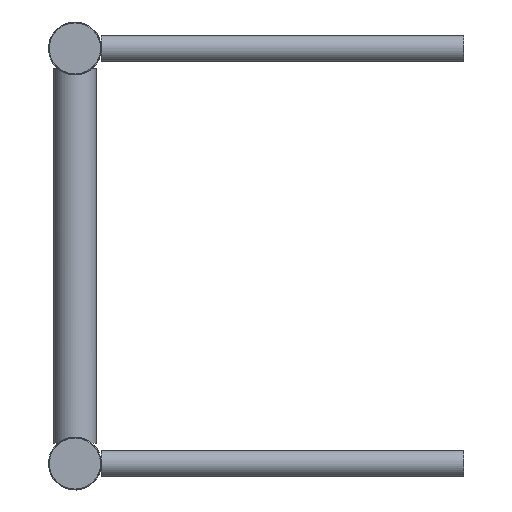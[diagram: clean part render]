
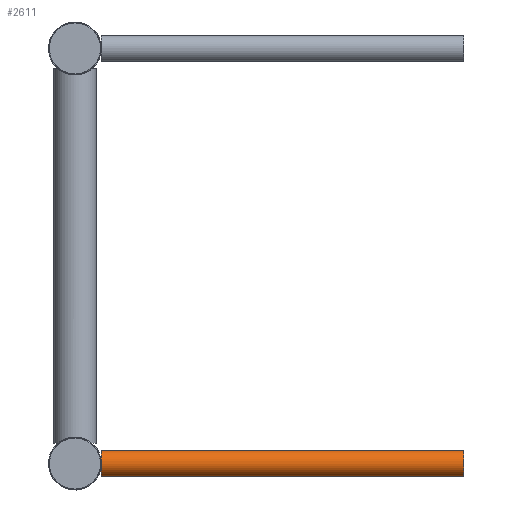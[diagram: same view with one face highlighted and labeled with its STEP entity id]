
A CAD part, left-side view. The second image highlights one B-rep face of the part: STEP entity #2611.
In plain terms, the highlighted cylindrical face has radius 15 mm (diameter 30 mm), a full revolution.
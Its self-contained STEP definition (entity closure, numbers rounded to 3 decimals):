
#82=CIRCLE('',#2801,15.);
#83=CIRCLE('',#2803,15.);
#88=CIRCLE('',#2809,15.);
#89=CIRCLE('',#2811,15.);
#492=FACE_BOUND('',#795,.T.);
#629=FACE_OUTER_BOUND('',#794,.T.);
#794=EDGE_LOOP('',(#1822,#1823));
#795=EDGE_LOOP('',(#1824,#1825));
#1164=VERTEX_POINT('',#5132);
#1165=VERTEX_POINT('',#5133);
#1167=VERTEX_POINT('',#5138);
#1168=VERTEX_POINT('',#5140);
#1440=EDGE_CURVE('',#1165,#1164,#82,.T.);
#1442=EDGE_CURVE('',#1168,#1167,#83,.T.);
#1450=EDGE_CURVE('',#1167,#1168,#88,.T.);
#1451=EDGE_CURVE('',#1164,#1165,#89,.T.);
#1822=ORIENTED_EDGE('',*,*,#1440,.T.);
#1823=ORIENTED_EDGE('',*,*,#1451,.T.);
#1824=ORIENTED_EDGE('',*,*,#1450,.T.);
#1825=ORIENTED_EDGE('',*,*,#1442,.T.);
#2384=CYLINDRICAL_SURFACE('',#2812,15.);
#2611=ADVANCED_FACE('',(#629,#492),#2384,.T.);
#2801=AXIS2_PLACEMENT_3D('',#5135,#3167,#3168);
#2803=AXIS2_PLACEMENT_3D('',#5141,#3172,#3173);
#2809=AXIS2_PLACEMENT_3D('',#5155,#3187,#3188);
#2811=AXIS2_PLACEMENT_3D('',#5157,#3191,#3192);
#2812=AXIS2_PLACEMENT_3D('',#5158,#3193,#3194);
#3167=DIRECTION('center_axis',(0.,1.,0.));
#3168=DIRECTION('ref_axis',(1.,0.,0.));
#3172=DIRECTION('center_axis',(0.,-1.,0.));
#3173=DIRECTION('ref_axis',(1.,0.,0.));
#3187=DIRECTION('center_axis',(0.,-1.,0.));
#3188=DIRECTION('ref_axis',(1.,0.,0.));
#3191=DIRECTION('center_axis',(0.,1.,0.));
#3192=DIRECTION('ref_axis',(1.,0.,0.));
#3193=DIRECTION('center_axis',(0.,1.,0.));
#3194=DIRECTION('ref_axis',(1.,0.,0.));
#5132=CARTESIAN_POINT('',(110.,30.,-470.));
#5133=CARTESIAN_POINT('',(80.,30.,-470.));
#5135=CARTESIAN_POINT('Origin',(95.,30.,-470.));
#5138=CARTESIAN_POINT('',(80.,440.,-470.));
#5140=CARTESIAN_POINT('',(110.,440.,-470.));
#5141=CARTESIAN_POINT('Origin',(95.,440.,-470.));
#5155=CARTESIAN_POINT('Origin',(95.,440.,-470.));
#5157=CARTESIAN_POINT('Origin',(95.,30.,-470.));
#5158=CARTESIAN_POINT('Origin',(95.,235.,-470.));
